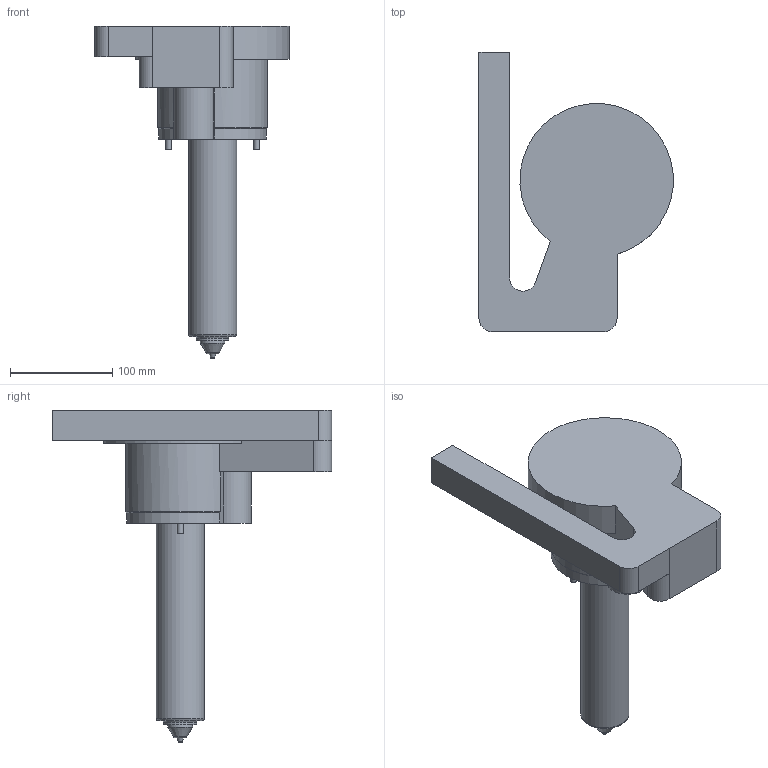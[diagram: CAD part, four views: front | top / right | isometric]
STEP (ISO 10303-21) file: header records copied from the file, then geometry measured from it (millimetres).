
FILE_DESCRIPTION( ( 'STEP AP214' ), '1' );
FILE_NAME( 'G:/PROIECTE_YUDO_2009_dupa_1.07.2009/PROIECTE YUDO 3D 01.07.2009/SAS/YUEU09-SAS32VC292-4/YUEU09-SAS32VC292_CUTOUT.step', '2009-10-01T11:49:09', ( ' ' ), ( ' ' ), 'XStep 1.0', ' ', ' ' );
FILE_SCHEMA( ( 'automotive_design' ) );
Length unit declared in the file: millimetre
Products named in the file (1): 1
Bounding box: 189.74 x 273 x 324.5 mm (x, y, z)
Volume: 2333401.5 mm3; surface area: 166994.5 mm2
Topology: 1 solids, 1 shells, 42 faces, 98 edges, 65 vertices
Faces by surface type: plane 21, cylinder 15, cone 4, torus 2
Full cylindrical faces by diameter (mm): 4 x1, 6 x2, 6.5 x1, 24 x1, 32 x1, 47 x1
Entity records: 1460 total; most frequent: DIRECTION 202, CARTESIAN_POINT 190, ORIENTED_EDGE 162, EDGE_CURVE 81, AXIS2_PLACEMENT_3D 80, EDGE_LOOP 61, VERTEX_POINT 60, FACE_OUTER_BOUND 51
